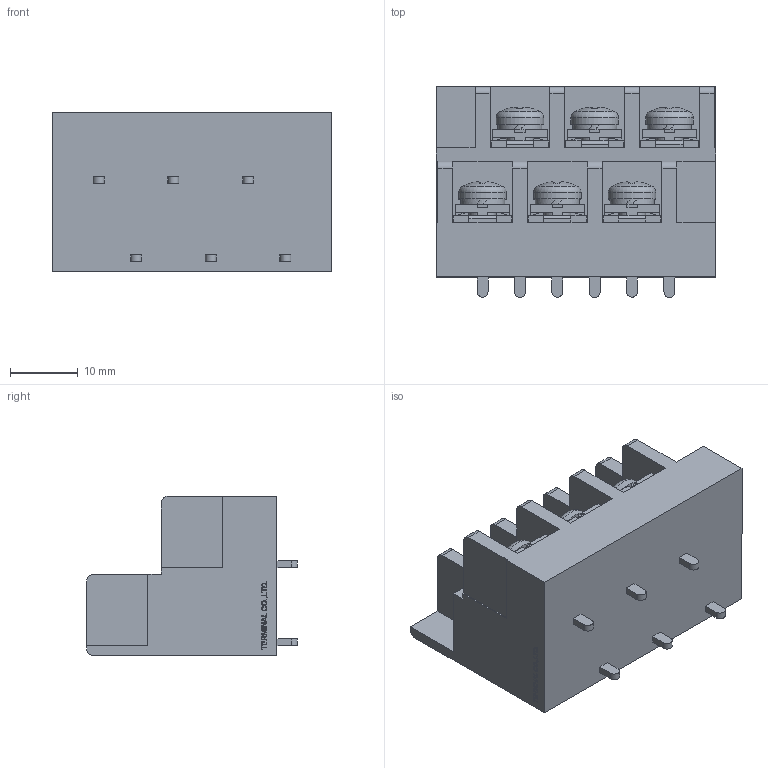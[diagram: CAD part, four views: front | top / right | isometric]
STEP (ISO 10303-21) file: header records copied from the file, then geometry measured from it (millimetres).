
FILE_DESCRIPTION(/* description */ ('Alibre Inc.'),/* implementation_level */ '2;1');
FILE_NAME(/* name */ 'export0',/* time_stamp */ '2016-08-05T11:40:10+09:00',/* author */ (''),/* organization */ (''),/* preprocessor_version */ 'ST-DEVELOPER v14',/* originating_system */ 'Alibre',/* authorisation */ '');
FILE_SCHEMA (('CONFIG_CONTROL_DESIGN'));
Length unit declared in the file: centimetre
Products named in the file (1): ID_1
Bounding box: 41.1 x 31 x 23.5 mm (x, y, z)
Volume: 17205.8 mm3; surface area: 8295.1 mm2
Topology: 1 solids, 65 shells, 1517 faces, 3960 edges, 2614 vertices
Faces by surface type: plane 1164, bspline 260, cylinder 51, cone 24, torus 12, sphere 6
Full cylindrical faces by diameter (mm): 4 x6, 7 x6
Entity records: 44369 total; most frequent: CARTESIAN_POINT 10407, ORIENTED_EDGE 7908, DIRECTION 4820, EDGE_CURVE 3930, VECTOR 2989, LINE 2989, VERTEX_POINT 2608, EDGE_LOOP 1638
